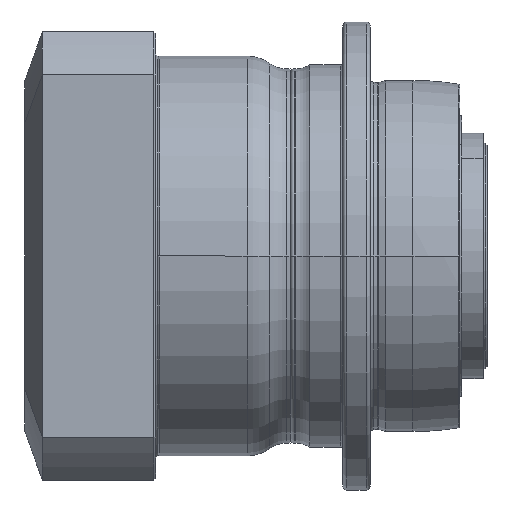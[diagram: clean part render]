
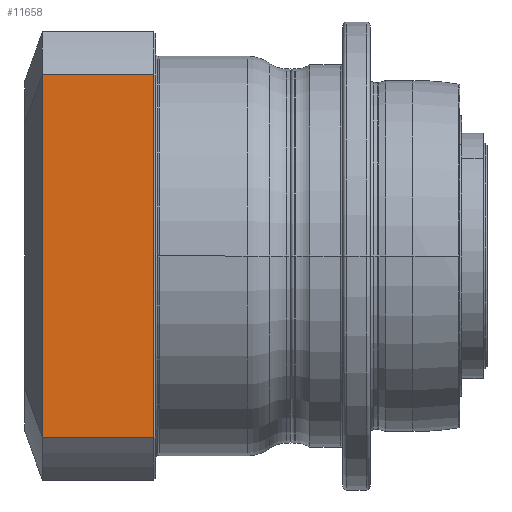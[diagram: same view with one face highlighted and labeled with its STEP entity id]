
A CAD part, front view. The second image highlights one B-rep face of the part: STEP entity #11658.
In plain terms, the highlighted planar face has unit normal (0, -1, 0) as drawn and (0, 1, 0) by its records, which use the part's own axes.
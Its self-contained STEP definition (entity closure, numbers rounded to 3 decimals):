
#10413=CARTESIAN_POINT('',(-46.581,57.5,31.5));
#10415=DIRECTION('',(-1.,0.,0.));
#10416=VECTOR('',#10415,93.161);
#10417=CARTESIAN_POINT('',(46.581,57.5,31.5));
#10418=LINE('',#10417,#10416);
#10419=DIRECTION('',(0.,0.,1.));
#10420=VECTOR('',#10419,28.5);
#10421=CARTESIAN_POINT('',(-46.581,57.5,3.));
#10422=LINE('',#10421,#10420);
#10423=DIRECTION('',(0.,0.,1.));
#10424=VECTOR('',#10423,28.5);
#10425=CARTESIAN_POINT('',(46.581,57.5,3.));
#10426=LINE('',#10425,#10424);
#10447=DIRECTION('',(-1.,0.,0.));
#10448=VECTOR('',#10447,93.161);
#10449=CARTESIAN_POINT('',(46.581,57.5,3.));
#10450=LINE('',#10449,#10448);
#10880=CARTESIAN_POINT('',(46.581,57.5,3.));
#10881=CARTESIAN_POINT('',(-46.581,57.5,3.));
#10882=VERTEX_POINT('',#10880);
#10883=VERTEX_POINT('',#10881);
#10957=CARTESIAN_POINT('',(46.581,57.5,31.5));
#10959=VERTEX_POINT('',#10957);
#10961=VERTEX_POINT('',#10413);
#11644=CARTESIAN_POINT('',(57.5,57.5,0.));
#11645=DIRECTION('',(0.,1.,0.));
#11646=DIRECTION('',(-1.,0.,0.));
#11647=AXIS2_PLACEMENT_3D('',#11644,#11645,#11646);
#11648=PLANE('',#11647);
#11649=ORIENTED_EDGE('',*,*,#11639,.T.);
#11651=ORIENTED_EDGE('',*,*,#11650,.F.);
#11653=ORIENTED_EDGE('',*,*,#11652,.F.);
#11655=ORIENTED_EDGE('',*,*,#11654,.T.);
#11656=EDGE_LOOP('',(#11649,#11651,#11653,#11655));
#11657=FACE_OUTER_BOUND('',#11656,.F.);
#11658=ADVANCED_FACE('',(#11657),#11648,.T.);
#11639=EDGE_CURVE('',#10959,#10961,#10418,.T.);
#11650=EDGE_CURVE('',#10883,#10961,#10422,.T.);
#11652=EDGE_CURVE('',#10882,#10883,#10450,.T.);
#11654=EDGE_CURVE('',#10882,#10959,#10426,.T.);
